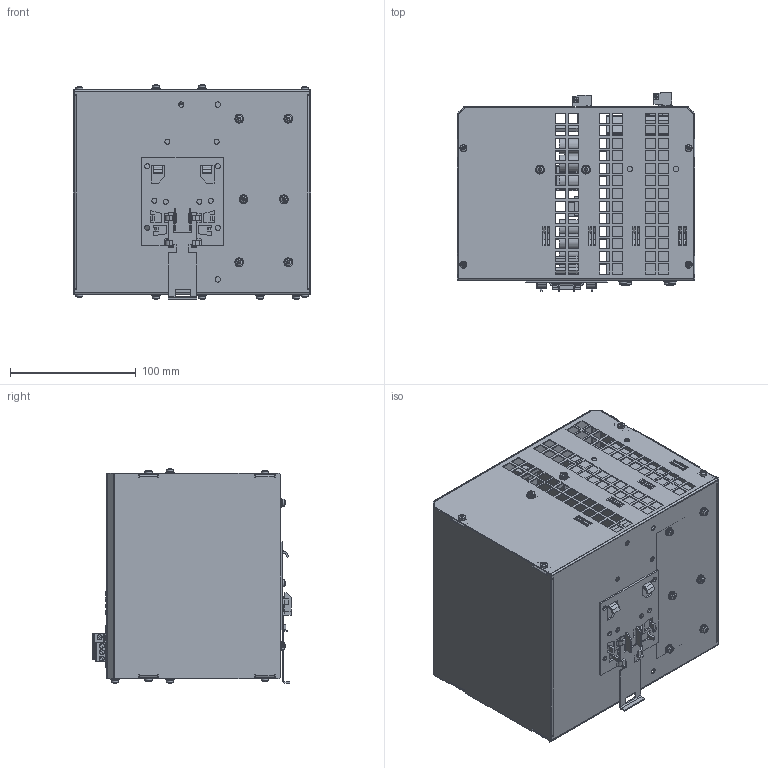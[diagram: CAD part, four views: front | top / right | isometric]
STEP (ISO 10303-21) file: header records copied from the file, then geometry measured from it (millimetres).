
FILE_DESCRIPTION(/* description */ ('AC-C-TEC 2410-10'),/* implementation_level */ '2;1');
FILE_NAME(/* name */ 'AC-C-TEC 2410-13,4.stp',/* time_stamp */ '2026-06-24T15:44:50+02:00',/* author */ ('mhe'),/* organization */ (''),/* preprocessor_version */ 'ST-DEVELOPER v20',/* originating_system */ 'Autodesk Inventor 2025',/* authorisation */ '');
FILE_SCHEMA (('AUTOMOTIVE_DESIGN { 1 0 10303 214 3 1 1 }'));
Products named in the file (24): 0607G01Z05-140820; DIN7981 2,9x6,5 ; DIN6900 M3x6-gvz; 289030050035 ; DIN934 M3-gvz; 0607G01Z03-141103; 0607G01Z01-141103; 0606G02L01-130826 ; 0606G02L01-130826 DC-USV, Puffermodul 24V 10A; SCHNEIDER-LUMBERG USB-2.0-Steckverbinder; SCHNEIDER-MENTOR Leuchtdoide 3xgrün-1xrot; 2EDGRM-9x5.08; 2EDGRM-3x5.08; 0606G03L06-130923 ; 0606G03L06-130923 Kondensatorbatterie; NFPG1311G02001 ; 1138G02-120118 ; 1138G02-120118 Platine; SCHNEIDER Keystone 7690; 2EDGVM-3.x7,62; 2EDKM-7.62x3 ; 2EDGKM-5.08x3 ; SCHNEIDER Hutschienenbefestigung; SCHNEIDER Stiftkontakt
Assembly tree (61 placements, depth 3):
  0607G01Z05-140820
    DIN6900 M3x6-gvz  x17
    DIN934 M3-gvz  x5
    DIN7981 2,9x6,5   x8
    289030050035   x5
    0607G01Z03-141103
    0607G01Z01-141103
    0606G02L01-130826 
      0606G02L01-130826 DC-USV, Puffermodul 24V 10A
      SCHNEIDER Keystone 7690  x2
      SCHNEIDER-LUMBERG USB-2.0-Steckverbinder
      SCHNEIDER-MENTOR Leuchtdoide 3xgrün-1xrot
      2EDGRM-9x5.08
      2EDGRM-3x5.08
    0606G03L06-130923 
      0606G03L06-130923 Kondensatorbatterie
      SCHNEIDER Keystone 7690  x2
    NFPG1311G02001 
    1138G02-120118 
      1138G02-120118 Platine
      SCHNEIDER Keystone 7690  x2
      2EDGVM-3.x7,62
    2EDKM-7.62x3 
    2EDGKM-5.08x3 
    SCHNEIDER Hutschienenbefestigung
    SCHNEIDER Stiftkontakt  x3
Bounding box: 189 x 157.82 x 170.4 mm (x, y, z)
Volume: 2011547.3 mm3; surface area: 635938.5 mm2
Topology: 139 solids, 139 shells, 5109 faces, 12645 edges, 8029 vertices
Faces by surface type: plane 3465, cylinder 1068, cone 392, torus 124, sphere 40, bspline 20
Full cylindrical faces by diameter (mm): 0.434 x3, 0.609 x2, 1 x6, 1.4 x22, 1.8 x6, 2.4 x4, 2.459 x16, 2.5 x16, 2.693 x25, 2.75 x17, 2.8 x22, 3 x37, 3.2 x8, 3.4 x6, 3.5 x16, 3.783 x6, 3.8 x2, 4 x22, 4.2 x20, 5.6 x25, 7 x17, 13 x7, 35 x12
Entity records: 115304 total; most frequent: CARTESIAN_POINT 21266, ORIENTED_EDGE 18706, DIRECTION 18457, EDGE_CURVE 9353, LINE 7591, VECTOR 7591, VERTEX_POINT 5902, AXIS2_PLACEMENT_3D 5433
